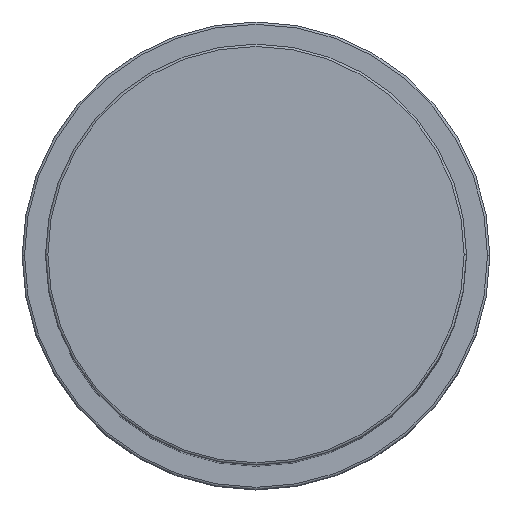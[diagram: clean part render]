
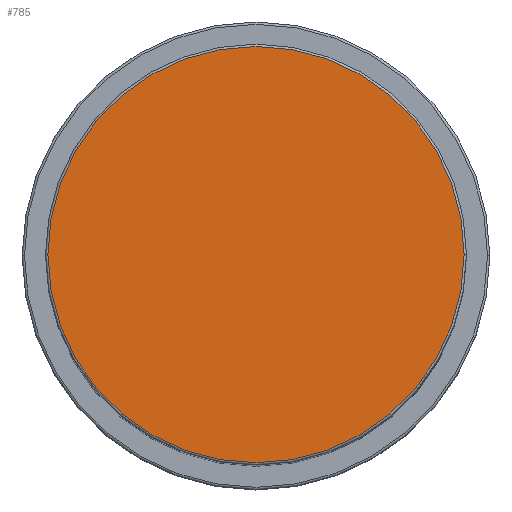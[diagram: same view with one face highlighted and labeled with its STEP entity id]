
A CAD part, top view. The second image highlights one B-rep face of the part: STEP entity #785.
In plain terms, the highlighted planar face has unit normal (0, 0, 1).
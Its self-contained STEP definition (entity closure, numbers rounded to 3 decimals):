
#76 = DIRECTION ( 'NONE',  ( 1., 0., 0. ) ) ;
#103 = EDGE_LOOP ( 'NONE', ( #988, #649 ) ) ;
#232 = DIRECTION ( 'NONE',  ( 1., 0., 0. ) ) ;
#461 = FACE_OUTER_BOUND ( 'NONE', #103, .T. ) ;
#557 = CARTESIAN_POINT ( 'NONE',  ( -44.5, 0., 169. ) ) ;
#563 = DIRECTION ( 'NONE',  ( 1., 0., 0. ) ) ;
#573 = VERTEX_POINT ( 'NONE', #979 ) ;
#613 = VERTEX_POINT ( 'NONE', #557 ) ;
#649 = ORIENTED_EDGE ( 'NONE', *, *, #1630, .T. ) ;
#691 = CIRCLE ( 'NONE', #820, 44.5 ) ;
#785 = ADVANCED_FACE ( 'NONE', ( #461 ), #1517, .T. ) ;
#806 = DIRECTION ( 'NONE',  ( 0., 0., 1. ) ) ;
#820 = AXIS2_PLACEMENT_3D ( 'NONE', #1784, #806, #232 ) ;
#829 = CIRCLE ( 'NONE', #1515, 44.5 ) ;
#979 = CARTESIAN_POINT ( 'NONE',  ( 44.5, 0., 169. ) ) ;
#988 = ORIENTED_EDGE ( 'NONE', *, *, #1682, .T. ) ;
#1132 = CARTESIAN_POINT ( 'NONE',  ( 0., 0., 169. ) ) ;
#1254 = DIRECTION ( 'NONE',  ( 0., 0., 1. ) ) ;
#1304 = AXIS2_PLACEMENT_3D ( 'NONE', #1132, #1254, #563 ) ;
#1515 = AXIS2_PLACEMENT_3D ( 'NONE', #1601, #1738, #76 ) ;
#1517 = PLANE ( 'NONE',  #1304 ) ;
#1601 = CARTESIAN_POINT ( 'NONE',  ( 0., 0., 169. ) ) ;
#1630 = EDGE_CURVE ( 'NONE', #613, #573, #829, .T. ) ;
#1682 = EDGE_CURVE ( 'NONE', #573, #613, #691, .T. ) ;
#1738 = DIRECTION ( 'NONE',  ( 0., 0., 1. ) ) ;
#1784 = CARTESIAN_POINT ( 'NONE',  ( 0., 0., 169. ) ) ;
